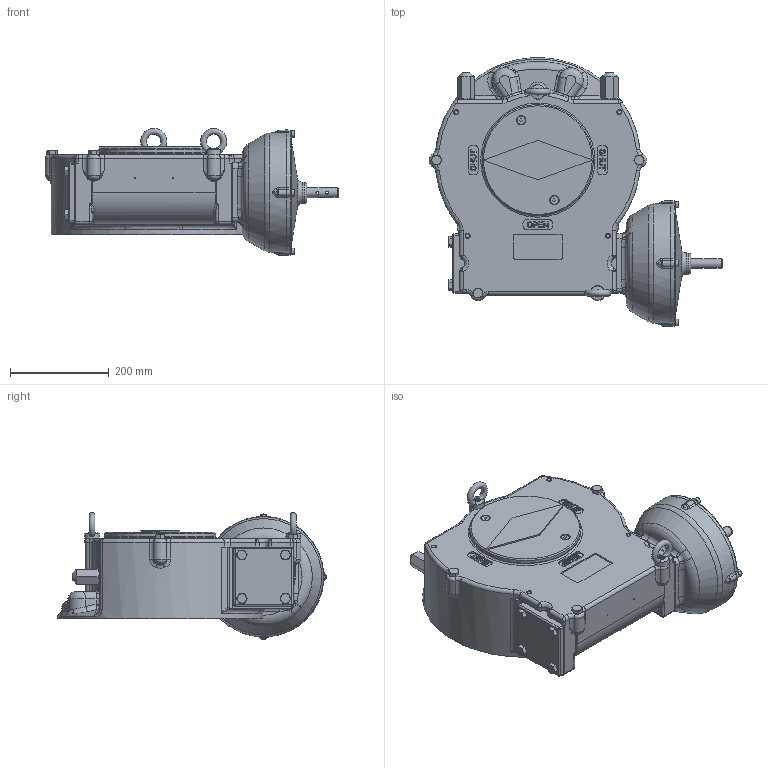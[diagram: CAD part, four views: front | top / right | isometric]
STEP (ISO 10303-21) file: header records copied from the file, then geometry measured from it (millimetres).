
FILE_DESCRIPTION( ( 'Unknown' ), '1' );
FILE_NAME( 'M:/Current Drawings/Internet datasheets/4 - STEP/A200G-PR10 LH.stp', 'Unknown', ( 'Unknown' ), ( 'Unknown' ), 'PSStep 15.0.49', 'Unknown', ' ' );
FILE_SCHEMA( ( 'AUTOMOTIVE_DESIGN { 1 0 10303 214 1 1 1 1 }' ) );
Length unit declared in the file: millimetre
Products named in the file (1): 22H0Z10000000
Bounding box: 594.45 x 543.47 x 256.88 mm (x, y, z)
Volume: 18094557.5 mm3; surface area: 1583357.2 mm2
Topology: 1 solids, 47 shells, 3245 faces, 8647 edges, 5475 vertices
Faces by surface type: cylinder 1142, plane 849, cone 566, bspline 333, torus 297, sphere 30, extrusion 28
Full cylindrical faces by diameter (mm): 2 x2, 6 x2, 6.647 x12, 8 x10, 8.5 x4, 9 x2, 10 x20, 10.106 x28, 12 x9, 13 x9, 13.27 x4, 13.835 x16, 14 x4, 17.294 x18, 19 x1, 20 x8, 20.5 x2, 23 x1, 25 x1, 26 x2, 26.211 x16, 29.5 x1, 30 x1, 36.5 x1, 38 x2, 39 x1, 45 x2, 65 x1, 85 x2, 190.6 x2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
Entity records: 176447 total; most frequent: CARTESIAN_POINT 75221, ORIENTED_EDGE 15970, DIRECTION 15243, EDGE_CURVE 7985, AXIS2_PLACEMENT_3D 6312, VERTEX_POINT 5310, EDGE_LOOP 3704, FACE_OUTER_BOUND 3482
